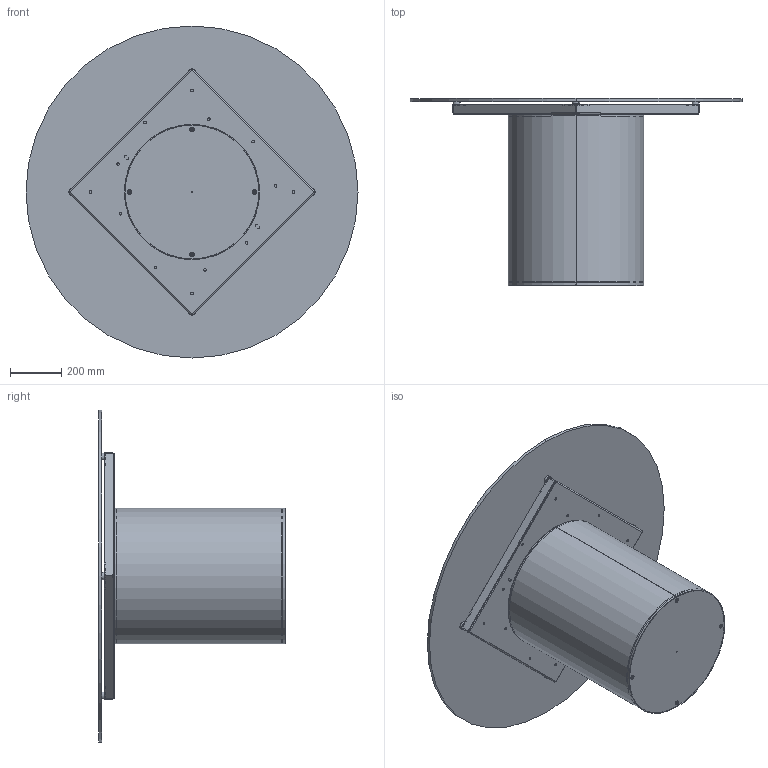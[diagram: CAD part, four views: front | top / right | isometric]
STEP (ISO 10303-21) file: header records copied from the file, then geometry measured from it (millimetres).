
FILE_DESCRIPTION (( 'STEP AP203' ), '1' );
FILE_NAME ('CI05G.STEP', '2024-08-08T06:58:43', ( '' ), ( '' ), 'SwSTEP 2.0', 'SolidWorks 2022', '' );
FILE_SCHEMA (( 'CONFIG_CONTROL_DESIGN' ));
Length unit declared in the file: millimetre
Products named in the file (11): C2B000000_01-00-struttura cilindro D.530mm; M8xXXmm_hex_M8X20mm; TTAV0801-02-TELAIO UNIVERSALE TONDO-VASSOIO; TTAV0801-02-TELAIO UNIVERSALE TONDO; TTAV0801 TELAIO UNIVERSALE TONDO-PIASTRINA; 434070-00-PIEDINO TPV GOMMA NERO D. 30x8max18_filo estetico; COLLO TELAIO UNIVERSALE TTAV0801 CON FERRAMENTA_MTG TOP CRISTALLO VERNICIATO-CERAMICA; CI05G; C2B000000_02-01-ZAVORRA IN FERRO D.530mm; C2B000000-03-CILINDRO BASE D.530mm_Normale; C1XCRMXX-00-piani Rotondi Cristallo_C05 D.130cm
Assembly tree (19 placements, depth 4):
  CI05G
    C2B000000-03-CILINDRO BASE D.530mm_Normale
      C2B000000_01-00-struttura cilindro D.530mm
      C2B000000_02-01-ZAVORRA IN FERRO D.530mm
      M8xXXmm_hex_M8X20mm  x4
    COLLO TELAIO UNIVERSALE TTAV0801 CON FERRAMENTA_MTG TOP CRISTALLO VERNICIATO-CERAMICA
      TTAV0801-02-TELAIO UNIVERSALE TONDO
        TTAV0801-02-TELAIO UNIVERSALE TONDO-VASSOIO
        TTAV0801 TELAIO UNIVERSALE TONDO-PIASTRINA  x4
      434070-00-PIEDINO TPV GOMMA NERO D. 30x8max18_filo estetico  x4
    C1XCRMXX-00-piani Rotondi Cristallo_C05 D.130cm
Bounding box: 1300 x 732 x 1300 mm (x, y, z)
Volume: 23249204.8 mm3; surface area: 6847825.9 mm2
Topology: 23 solids, 23 shells, 704 faces, 1776 edges, 1110 vertices
Faces by surface type: plane 332, cylinder 302, cone 32, torus 24, sphere 14
Entity records: 15444 total; most frequent: DIRECTION 2573, CARTESIAN_POINT 2386, ORIENTED_EDGE 2338, EDGE_CURVE 1169, AXIS2_PLACEMENT_3D 930, VERTEX_POINT 743, LINE 713, VECTOR 713
